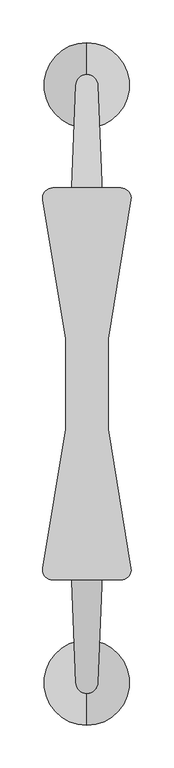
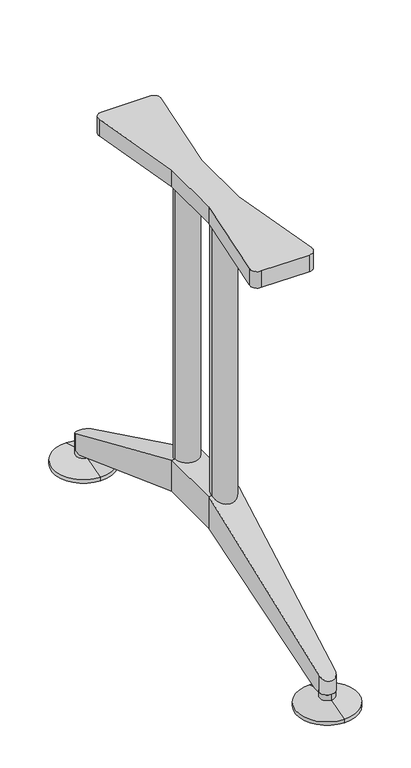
"""IFC4 building model written with IfcOpenShell, lengths in millimetres: furniture geometry, Furniture_Wilkhahn_620-23_Logon Table-Rectangle : Logon 620/23_2450L x 800W x 730H."""

from ifc_helpers import new_model, si_unit, point, frame, frame_2d, origin, place, context, project, spatial, polyline, circle_curve, ellipse_curve, trimmed, segment, composite_curve, outline, extrude, source, transform, mapped, element, save
from ifc_brep_helpers import plane_surface, cylinder_surface, revolved_surface, advanced_brep


def furniture_962fa7e1(model_context):
    return source(origin(), model_context, "Body", "SolidModel", [
        advanced_brep(
        [(-925.0, 376.4755164, 0.0), (-925.0, 426.4755164, 0.0), (-925.0, 326.4755164, 0.0), (-925.0, 426.4755164, 6.0), (-925.0, 326.4755164, 6.0), (-925.0, 388.9511544, 17.0), (-925.0, 363.9998784, 17.0), (-925.0, 388.9511544, 27.0), (-925.0, 363.9998784, 27.0), (-925.0, 376.4755164, 27.0)],
        [
            (0, 1),
            (1, 2, circle_curve(frame((-925.0, 376.4755164, 0.0), z_axis=(0.0, 0.0, -1.0), x_axis=(0.0, 1.0000000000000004, 0.0)), 50.0)),
            (2, 0),
            (2, 1, circle_curve(frame((-925.0, 376.4755164, 0.0), z_axis=(0.0, 0.0, -1.0), x_axis=(0.0, 1.0000000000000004, 0.0)), 50.0)),
            (1, 3),
            (3, 4, circle_curve(frame((-925.0, 376.4755164, 6.0), z_axis=(0.0, 0.0, -1.0), x_axis=(0.0, 1.0000000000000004, 0.0)), 50.0)),
            (4, 2),
            (4, 3, circle_curve(frame((-925.0, 376.4755164, 6.0), z_axis=(0.0, 0.0, -1.0), x_axis=(0.0, 1.0000000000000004, 0.0)), 50.0)),
            (3, 5),
            (5, 6, circle_curve(frame((-925.0, 376.4755164, 17.0), z_axis=(0.0, 0.0, -1.0), x_axis=(0.0, 1.0000000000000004, 0.0)), 12.475638)),
            (6, 4),
            (6, 5, circle_curve(frame((-925.0, 376.4755164, 17.0), z_axis=(0.0, 0.0, -1.0), x_axis=(0.0, 1.0000000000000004, 0.0)), 12.475638)),
            (5, 7),
            (7, 8, circle_curve(frame((-925.0, 376.4755164, 27.0), z_axis=(0.0, 0.0, -1.0), x_axis=(0.0, 1.0000000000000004, 0.0)), 12.475638)),
            (8, 6),
            (8, 7, circle_curve(frame((-925.0, 376.4755164, 27.0), z_axis=(0.0, 0.0, -1.0), x_axis=(0.0, 1.0000000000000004, 0.0)), 12.475638)),
            (7, 9),
            (9, 8),
        ],
        [
            plane_surface(frame((-925.0, 376.4755164, 0.0), z_axis=(0.0, 0.0, -1.0), x_axis=(0.0, 1.0, 0.0))),
            cylinder_surface(frame((-925.0, 376.4755164, 27.0), z_axis=(0.0, 0.0, -1.0), x_axis=(0.0, 1.0000000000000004, 0.0)), 50.0),
            revolved_surface(polyline([(-925.0, 388.9511544, 17.0), (-925.0, 426.4755164, 6.0)]), (-925.0, 376.4755164, 27.0), (0.0, 0.0, -1.0)),
            cylinder_surface(frame((-925.0, 376.4755164, 27.0), z_axis=(0.0, 0.0, -1.0), x_axis=(0.0, 1.0000000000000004, 0.0)), 12.475638),
            plane_surface(frame((-925.0, 376.4755164, 27.0), z_axis=(0.0, 0.0, 1.0), x_axis=(0.0, 1.0, 0.0))),
        ],
        [
            (0, [[1, 2, 3]]),
            (0, [[-3, 4, -1]]),
            (1, [[-2, 5, 6, 7]]),
            (1, [[-4, -7, 8, -5]]),
            (2, [[-6, 9, 10, 11]]),
            (2, [[-8, -11, 12, -9]]),
            (3, [[-10, 13, 14, 15]]),
            (3, [[-12, -15, 16, -13]]),
            (4, [[-14, 17, 18]]),
            (4, [[-16, -18, -17]]),
        ],
    ),
        advanced_brep(
        [(-925.0, -274.5732076, 0.0), (-925.0, -374.5732076, 0.0), (-925.0, -324.5732076, 0.0), (-925.0, -274.5732076, 6.0), (-925.0, -374.5732076, 6.0), (-925.0, -312.0975696, 17.0), (-925.0, -337.0488456, 17.0), (-925.0, -312.0975696, 27.0), (-925.0, -337.0488456, 27.0), (-925.0, -324.5732076, 27.0)],
        [
            (0, 1, circle_curve(frame((-925.0, -324.5732076, 0.0), z_axis=(0.0, 0.0, -1.0), x_axis=(0.0, -1.0000000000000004, 0.0)), 50.0)),
            (1, 2),
            (2, 0),
            (1, 0, circle_curve(frame((-925.0, -324.5732076, 0.0), z_axis=(0.0, 0.0, -1.0), x_axis=(0.0, -1.0000000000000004, 0.0)), 50.0)),
            (3, 4, circle_curve(frame((-925.0, -324.5732076, 6.0), z_axis=(0.0, 0.0, -1.0), x_axis=(0.0, -1.0000000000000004, 0.0)), 50.0)),
            (4, 1),
            (0, 3),
            (4, 3, circle_curve(frame((-925.0, -324.5732076, 6.0), z_axis=(0.0, 0.0, -1.0), x_axis=(0.0, -1.0000000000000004, 0.0)), 50.0)),
            (5, 6, circle_curve(frame((-925.0, -324.5732076, 17.0), z_axis=(0.0, 0.0, -1.0), x_axis=(0.0, -1.0000000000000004, 0.0)), 12.475638)),
            (6, 4),
            (3, 5),
            (6, 5, circle_curve(frame((-925.0, -324.5732076, 17.0), z_axis=(0.0, 0.0, -1.0), x_axis=(0.0, -1.0000000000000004, 0.0)), 12.475638)),
            (7, 8, circle_curve(frame((-925.0, -324.5732076, 27.0), z_axis=(0.0, 0.0, -1.0), x_axis=(0.0, -1.0000000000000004, 0.0)), 12.475638)),
            (8, 6),
            (5, 7),
            (8, 7, circle_curve(frame((-925.0, -324.5732076, 27.0), z_axis=(0.0, 0.0, -1.0), x_axis=(0.0, -1.0000000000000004, 0.0)), 12.475638)),
            (9, 8),
            (7, 9),
        ],
        [
            plane_surface(frame((-925.0, -324.5732076, 0.0), z_axis=(0.0, 0.0, -1.0), x_axis=(0.0, -1.0, 0.0))),
            cylinder_surface(frame((-925.0, -324.5732076, 27.0), z_axis=(0.0, 0.0, 1.0), x_axis=(0.0, -1.0000000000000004, 0.0)), 50.0),
            revolved_surface(polyline([(-925.0, -374.5732076, 6.0), (-925.0, -337.0488456, 17.0)]), (-925.0, -324.5732076, 27.0), (0.0, 0.0, 1.0)),
            cylinder_surface(frame((-925.0, -324.5732076, 27.0), z_axis=(0.0, 0.0, 1.0), x_axis=(0.0, -1.0000000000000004, 0.0)), 12.475638),
            plane_surface(frame((-925.0, -324.5732076, 27.0), z_axis=(0.0, 0.0, 1.0), x_axis=(0.0, -1.0, 0.0))),
        ],
        [
            (0, [[1, 2, 3]]),
            (0, [[4, -3, -2]]),
            (1, [[5, 6, -1, 7]]),
            (1, [[8, -7, -4, -6]]),
            (2, [[9, 10, -5, 11]]),
            (2, [[12, -11, -8, -10]]),
            (3, [[13, 14, -9, 15]]),
            (3, [[16, -15, -12, -14]]),
            (4, [[17, -13, 18]]),
            (4, [[-18, -16, -17]]),
        ],
    ),
        extrude(outline(composite_curve([segment(polyline([(-950.0, 78.9511544), (-976.7160071, 242.0109222)]), True, "CONTINUOUS"), segment(trimmed(circle_curve(frame_2d((-964.8739001, 243.9511544)), 12.0), [point((-976.7160071, 242.0109222))], [point((-964.8739001, 255.9511544))], False, "CARTESIAN"), True, "CONTINUOUS"), segment(polyline([(-964.8739001, 255.9511544), (-885.1260999, 255.9511544)]), True, "CONTINUOUS"), segment(trimmed(circle_curve(frame_2d((-885.1260999, 243.9511544)), 12.0), [point((-885.1260999, 255.9511544))], [point((-873.2839929, 242.0109222))], False, "CARTESIAN"), True, "CONTINUOUS"), segment(polyline([(-873.2839929, 242.0109222), (-900.0, 78.9511544), (-900.0, -27.0488456), (-873.2839929, -190.1086133)]), True, "CONTINUOUS"), segment(trimmed(circle_curve(frame_2d((-885.1260999, -192.0488456)), 12.0), [point((-873.2839929, -190.1086133))], [point((-885.1260999, -204.0488456))], False, "CARTESIAN"), True, "CONTINUOUS"), segment(polyline([(-885.1260999, -204.0488456), (-964.8739001, -204.0488456)]), True, "CONTINUOUS"), segment(trimmed(circle_curve(frame_2d((-964.8739001, -192.0488456)), 12.0), [point((-964.8739001, -204.0488456))], [point((-976.7160071, -190.1086133))], False, "CARTESIAN"), True, "CONTINUOUS"), segment(polyline([(-976.7160071, -190.1086133), (-950.0, -27.0488456), (-950.0, 78.9511544)]), True, "CONTINUOUS")], self_intersect=False)), frame((0.0, 0.0, 675.0), z_axis=(0.0, 0.0, 1.0), x_axis=(1.0, 0.0, 0.0)), (0.0, 0.0, 1.0), 29.0),
        advanced_brep(
        [(-900.0, -27.0488456, 140.0), (-900.0, 78.9511544, 140.0), (-900.0, 78.9511544, 195.0), (-900.0, -27.0488456, 195.0), (-950.0, -27.0488456, 195.0), (-950.0, 78.9511544, 195.0), (-950.0, 78.9511544, 140.0), (-950.0, -27.0488456, 140.0), (-938.4930419, -312.0975696, 27.0), (-911.5069581, -312.0975696, 27.0), (-912.0105795, -324.5732076, 27.0), (-925.0, -337.0488456, 27.0), (-937.9894205, -324.5732076, 27.0), (-937.9894205, -324.5732076, 56.4159205), (-925.0, -337.0488456, 50.6048844), (-912.0105795, -324.5732076, 56.4159205), (-937.9894205, 376.4755164, 56.4159205), (-937.9894205, 376.4755164, 27.0), (-938.4930419, 363.9998784, 27.0), (-912.0105795, 376.4755164, 27.0), (-912.0105795, 376.4755164, 56.4159205), (-911.5069581, 363.9998784, 27.0), (-925.0, 388.9511544, 27.0), (-925.0, 388.9511544, 50.6048844)],
        [
            (0, 1),
            (1, 2),
            (2, 3),
            (3, 0),
            (4, 5),
            (5, 6),
            (6, 7),
            (7, 4),
            (8, 9),
            (9, 10),
            (10, 11, circle_curve(frame((-925.0, -324.0488456, 27.0), z_axis=(0.0, 0.0, -1.0), x_axis=(-1.0000000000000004, 0.0, 0.0)), 13.0)),
            (11, 12, circle_curve(frame((-925.0, -324.0488456, 27.0), z_axis=(0.0, 0.0, -1.0), x_axis=(-1.0000000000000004, 0.0, 0.0)), 13.0)),
            (12, 8),
            (3, 4),
            (4, 13),
            (13, 14, ellipse_curve(frame((-925.0, -324.0488456, 56.6601634), z_axis=(0.0, -0.42223330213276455, 0.9064871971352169), x_axis=(0.0, -0.9064871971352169, -0.42223330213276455)), 14.341074, 13.0)),
            (14, 15, ellipse_curve(frame((-925.0, -324.0488456, 56.6601634), z_axis=(0.0, -0.42223330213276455, 0.9064871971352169), x_axis=(0.0, -0.9064871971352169, -0.42223330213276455)), 14.341074, 13.0)),
            (15, 3),
            (7, 0),
            (0, 9),
            (8, 7),
            (16, 17),
            (17, 18),
            (18, 6),
            (5, 16),
            (19, 20),
            (20, 2),
            (1, 21),
            (21, 19),
            (2, 5),
            (6, 1),
            (19, 22, circle_curve(frame((-925.0, 375.9511544, 27.0), z_axis=(0.0, 0.0, 1.0), x_axis=(-1.0000000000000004, 0.0, 0.0)), 13.0)),
            (22, 17, circle_curve(frame((-925.0, 375.9511544, 27.0), z_axis=(0.0, 0.0, 1.0), x_axis=(-1.0000000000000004, 0.0, 0.0)), 13.0)),
            (16, 23, ellipse_curve(frame((-925.0, 375.9511544, 56.6601634), z_axis=(0.0, -0.42223330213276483, -0.906487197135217), x_axis=(0.0, 0.906487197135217, -0.42223330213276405)), 14.341074, 13.0)),
            (23, 20, ellipse_curve(frame((-925.0, 375.9511544, 56.6601634), z_axis=(0.0, -0.42223330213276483, -0.906487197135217), x_axis=(0.0, 0.906487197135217, -0.42223330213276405)), 14.341074, 13.0)),
            (15, 10),
            (13, 12),
            (21, 18),
        ],
        [
            plane_surface(frame((-900.0, -320.3023057, 27.0), z_axis=(1.0, 0.0, 0.0), x_axis=(0.0, 1.0, 0.0))),
            plane_surface(frame((-950.0, -320.3023057, 27.0), z_axis=(-1.0, 0.0, 0.0), x_axis=(0.0, -1.0, 0.0))),
            plane_surface(frame((-950.0, -312.0975696, 27.0), z_axis=(0.0, 0.0, -1.0), x_axis=(1.0, 0.0, 0.0))),
            plane_surface(frame((-950.0, -337.0488456, 50.6048844), z_axis=(0.0, -0.42223330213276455, 0.9064871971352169), x_axis=(1.0, 0.0, 0.0))),
            plane_surface(frame((-950.0, -27.0488456, 140.0), z_axis=(0.0, 0.36852267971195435, -0.9296187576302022), x_axis=(1.0, 0.0, 0.0))),
            plane_surface(frame((-950.0, 78.9511544, 195.0), z_axis=(-0.9991861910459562, 0.04033553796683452, 0.0), x_axis=(0.0, 0.0, -1.0))),
            plane_surface(frame((-912.0105795, 376.4755164, 195.0), z_axis=(0.9991861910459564, 0.0403355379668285, 0.0), x_axis=(0.0, 0.0, -1.0))),
            plane_surface(frame((-950.0, -27.0488456, 195.0), z_axis=(0.0, 0.0, 1.0), x_axis=(1.0, 0.0, 0.0))),
            plane_surface(frame((-950.0, 78.9511544, 140.0), z_axis=(0.0, 0.0, -1.0), x_axis=(1.0, 0.0, 0.0))),
            cylinder_surface(frame((-925.0, 375.9511544, 0.0), z_axis=(0.0, 0.0, -1.0), x_axis=(-1.0000000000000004, 0.0, 0.0)), 13.0),
            plane_surface(frame((-900.0, -27.0488456, 195.0), z_axis=(0.9991861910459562, -0.040335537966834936, 0.0), x_axis=(0.0, 0.0, -1.0))),
            cylinder_surface(frame((-925.0, -324.0488456, -14.190167), z_axis=(0.0, 0.0, -1.0), x_axis=(-1.0000000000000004, 0.0, 0.0)), 13.0),
            plane_surface(frame((-937.9894205, -324.5732076, 195.0), z_axis=(-0.9991861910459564, -0.04033553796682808, 0.0), x_axis=(0.0, 0.0, -1.0))),
            plane_surface(frame((-950.0, 78.9511544, 195.0), z_axis=(0.0, 0.4222333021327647, 0.9064871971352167), x_axis=(1.0, 0.0, 0.0))),
            plane_surface(frame((-950.0, 388.9511544, 27.0), z_axis=(0.0, 0.0, -1.0), x_axis=(1.0, 0.0, 0.0))),
            plane_surface(frame((-950.0, 363.9998784, 27.0), z_axis=(0.0, -0.36852267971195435, -0.929618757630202), x_axis=(1.0, 0.0, 0.0))),
        ],
        [
            (0, [[1, 2, 3, 4]]),
            (1, [[5, 6, 7, 8]]),
            (2, [[9, 10, 11, 12, 13]]),
            (3, [[14, 15, 16, 17, 18]]),
            (4, [[19, 20, -9, 21]]),
            (5, [[22, 23, 24, -6, 25]]),
            (6, [[26, 27, -2, 28, 29]]),
            (7, [[-3, 30, -5, -14]]),
            (8, [[-1, -19, -7, 31]]),
            (9, [[-26, 32, 33, -22, 34, 35]]),
            (10, [[36, -10, -20, -4, -18]]),
            (11, [[-36, -17, -16, 37, -12, -11]]),
            (12, [[-37, -15, -8, -21, -13]]),
            (13, [[-30, -27, -35, -34, -25]]),
            (14, [[38, -23, -33, -32, -29]]),
            (15, [[-31, -24, -38, -28]]),
        ],
    ),
        extrude(outline(composite_curve([segment(trimmed(circle_curve(frame_2d((-925.0, 78.9511544)), 20.0), [point((-905.0, 78.9511544))], [point((-945.0, 78.9511544))], False, "CARTESIAN"), True, "CONTINUOUS"), segment(trimmed(circle_curve(frame_2d((-925.0, 78.9511544)), 20.0), [point((-945.0, 78.9511544))], [point((-905.0, 78.9511544))], False, "CARTESIAN"), True, "CONTINUOUS")], self_intersect=False)), frame((0.0, 0.0, 140.0), z_axis=(0.0, 0.0, 1.0), x_axis=(1.0, 0.0, 0.0)), (0.0, 0.0, 1.0), 535.0),
        extrude(outline(composite_curve([segment(trimmed(circle_curve(frame_2d((-925.0, -27.0488456)), 20.0), [point((-905.0, -27.0488456))], [point((-945.0, -27.0488456))], False, "CARTESIAN"), True, "CONTINUOUS"), segment(trimmed(circle_curve(frame_2d((-925.0, -27.0488456)), 20.0), [point((-945.0, -27.0488456))], [point((-905.0, -27.0488456))], False, "CARTESIAN"), True, "CONTINUOUS")], self_intersect=False)), frame((0.0, 0.0, 140.0), z_axis=(0.0, 0.0, 1.0), x_axis=(1.0, 0.0, 0.0)), (0.0, 0.0, 1.0), 535.0),
    ])


if __name__ == "__main__":
    model = new_model("IFC4")
    model_context = context("Model", 3, world=origin())
    ifc_project = project(units=[si_unit("LENGTHUNIT", "METRE", prefix="MILLI")], contexts=[model_context])
    site = spatial("IfcSite", under=ifc_project)
    building = spatial("IfcBuilding", under=site)
    placement = place(None, origin())
    furniture_shape = furniture_962fa7e1(model_context)
    element("IfcFurniture", 1, ObjectType="Furniture_Wilkhahn_620-23_Logon Table-Rectangle : Logon 620/23_2450L x 800W x 730H", at=placement, inside=building, context=model_context, shape_type="MappedRepresentation", body=[
        mapped(furniture_shape, transform((0.0, 0.0, 0.0), x_axis=(1.0, 0.0, 0.0), y_axis=(0.0, 1.0, 0.0), z_axis=(0.0, 0.0, 1.0))),
    ])
    save(model, "model.ifc")
